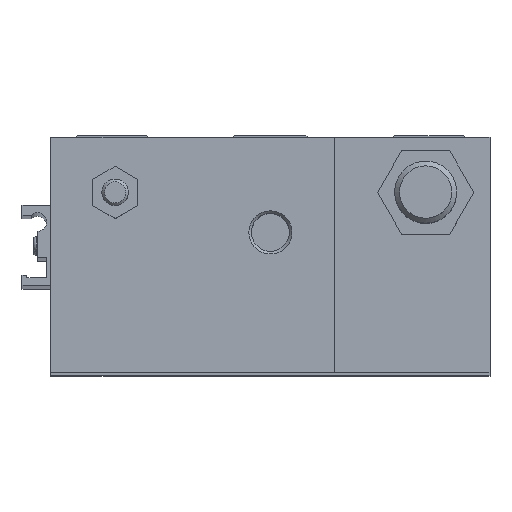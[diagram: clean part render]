
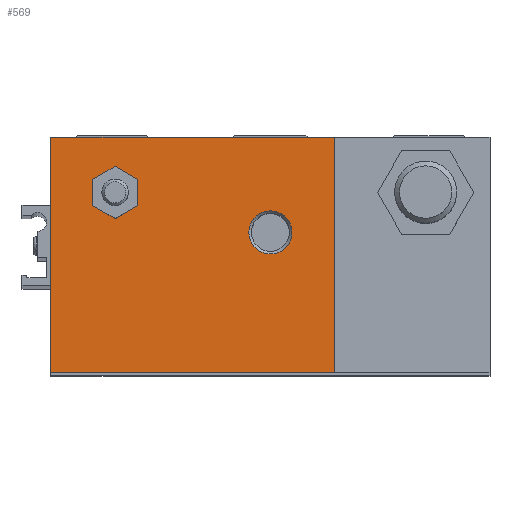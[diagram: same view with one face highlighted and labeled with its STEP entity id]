
A CAD part, top view. The second image highlights one B-rep face of the part: STEP entity #569.
In plain terms, the highlighted planar face has unit normal (0, 0, 1) as drawn and (0, 0, -1) by its records, which use the part's own axes.
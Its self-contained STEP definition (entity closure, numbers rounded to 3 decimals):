
#569 = ADVANCED_FACE( '', ( #1238, #1239, #1240 ), #1241, .F. );
#1238 = FACE_BOUND( '', #1942, .T. );
#1239 = FACE_BOUND( '', #1943, .T. );
#1240 = FACE_OUTER_BOUND( '', #1944, .T. );
#1241 = PLANE( '', #1945 );
#1942 = EDGE_LOOP( '', ( #3171, #3172, #3173, #3174, #3175, #3176 ) );
#1943 = EDGE_LOOP( '', ( #3177 ) );
#1944 = EDGE_LOOP( '', ( #3178, #3179, #3180, #3181 ) );
#1945 = AXIS2_PLACEMENT_3D( '', #3182, #3183, #3184 );
#3171 = ORIENTED_EDGE( '', *, *, #3873, .T. );
#3172 = ORIENTED_EDGE( '', *, *, #3876, .T. );
#3173 = ORIENTED_EDGE( '', *, *, #3591, .T. );
#3174 = ORIENTED_EDGE( '', *, *, #3670, .T. );
#3175 = ORIENTED_EDGE( '', *, *, #3728, .T. );
#3176 = ORIENTED_EDGE( '', *, *, #3657, .T. );
#3177 = ORIENTED_EDGE( '', *, *, #3740, .T. );
#3178 = ORIENTED_EDGE( '', *, *, #3743, .T. );
#3179 = ORIENTED_EDGE( '', *, *, #3830, .F. );
#3180 = ORIENTED_EDGE( '', *, *, #3877, .F. );
#3181 = ORIENTED_EDGE( '', *, *, #3878, .T. );
#3182 = CARTESIAN_POINT( '', ( 14.5, 53., -494.5 ) );
#3183 = DIRECTION( '', ( 0., 0., 1. ) );
#3184 = DIRECTION( '', ( 1., 0., 0. ) );
#3591 = EDGE_CURVE( '', #4195, #4196, #4197, .T. );
#3657 = EDGE_CURVE( '', #4299, #4300, #4301, .T. );
#3670 = EDGE_CURVE( '', #4196, #4319, #4320, .T. );
#3728 = EDGE_CURVE( '', #4319, #4299, #4406, .T. );
#3740 = EDGE_CURVE( '', #4422, #4422, #4423, .T. );
#3743 = EDGE_CURVE( '', #4426, #4427, #4428, .T. );
#3830 = EDGE_CURVE( '', #4552, #4427, #4554, .T. );
#3873 = EDGE_CURVE( '', #4300, #4605, #4606, .T. );
#3876 = EDGE_CURVE( '', #4605, #4195, #4609, .T. );
#3877 = EDGE_CURVE( '', #4610, #4552, #4611, .T. );
#3878 = EDGE_CURVE( '', #4610, #4426, #4612, .T. );
#4195 = VERTEX_POINT( '', #4999 );
#4196 = VERTEX_POINT( '', #5000 );
#4197 = LINE( '', #5001, #5002 );
#4299 = VERTEX_POINT( '', #5131 );
#4300 = VERTEX_POINT( '', #5132 );
#4301 = LINE( '', #5133, #5134 );
#4319 = VERTEX_POINT( '', #5154 );
#4320 = LINE( '', #5155, #5156 );
#4406 = LINE( '', #5257, #5258 );
#4422 = VERTEX_POINT( '', #5275 );
#4423 = CIRCLE( '', #5276, 4.864 );
#4426 = VERTEX_POINT( '', #5279 );
#4427 = VERTEX_POINT( '', #5280 );
#4428 = LINE( '', #5281, #5282 );
#4552 = VERTEX_POINT( '', #5444 );
#4554 = LINE( '', #5447, #5448 );
#4605 = VERTEX_POINT( '', #5513 );
#4606 = LINE( '', #5514, #5515 );
#4609 = LINE( '', #5519, #5520 );
#4610 = VERTEX_POINT( '', #5521 );
#4611 = LINE( '', #5522, #5523 );
#4612 = LINE( '', #5524, #5525 );
#4999 = CARTESIAN_POINT( '', ( -40.1, 9.556, -494.5 ) );
#5000 = CARTESIAN_POINT( '', ( -35., 6.611, -494.5 ) );
#5001 = CARTESIAN_POINT( '', ( -17.962, -3.226, -494.5 ) );
#5002 = VECTOR( '', #5800, 1000. );
#5131 = CARTESIAN_POINT( '', ( -29.9, 15.444, -494.5 ) );
#5132 = CARTESIAN_POINT( '', ( -35., 18.389, -494.5 ) );
#5133 = CARTESIAN_POINT( '', ( -12.862, 5.608, -494.5 ) );
#5134 = VECTOR( '', #5888, 1000. );
#5154 = CARTESIAN_POINT( '', ( -29.9, 9.556, -494.5 ) );
#5155 = CARTESIAN_POINT( '', ( 22.212, 39.642, -494.5 ) );
#5156 = VECTOR( '', #5906, 1000. );
#5257 = CARTESIAN_POINT( '', ( -29.9, 53., -494.5 ) );
#5258 = VECTOR( '', #5979, 1000. );
#5275 = CARTESIAN_POINT( '', ( 4.864, 21.5, -494.5 ) );
#5276 = AXIS2_PLACEMENT_3D( '', #5993, #5994, #5995 );
#5279 = CARTESIAN_POINT( '', ( 14.5, 0., -494.5 ) );
#5280 = CARTESIAN_POINT( '', ( -49.5, 0., -494.5 ) );
#5281 = CARTESIAN_POINT( '', ( 14.5, 0., -494.5 ) );
#5282 = VECTOR( '', #5996, 1000. );
#5444 = CARTESIAN_POINT( '', ( -49.5, 53., -494.5 ) );
#5447 = CARTESIAN_POINT( '', ( -49.5, 53., -494.5 ) );
#5448 = VECTOR( '', #6090, 1000. );
#5513 = CARTESIAN_POINT( '', ( -40.1, 15.444, -494.5 ) );
#5514 = CARTESIAN_POINT( '', ( 17.112, 48.476, -494.5 ) );
#5515 = VECTOR( '', #6120, 1000. );
#5519 = CARTESIAN_POINT( '', ( -40.1, 53., -494.5 ) );
#5520 = VECTOR( '', #6122, 1000. );
#5521 = CARTESIAN_POINT( '', ( 14.5, 53., -494.5 ) );
#5522 = CARTESIAN_POINT( '', ( 14.5, 53., -494.5 ) );
#5523 = VECTOR( '', #6123, 1000. );
#5524 = CARTESIAN_POINT( '', ( 14.5, 53., -494.5 ) );
#5525 = VECTOR( '', #6124, 1000. );
#5800 = DIRECTION( '', ( 0.866, -0.5, 0. ) );
#5888 = DIRECTION( '', ( -0.866, 0.5, 0. ) );
#5906 = DIRECTION( '', ( 0.866, 0.5, 0. ) );
#5979 = DIRECTION( '', ( 0., 1., 0. ) );
#5993 = CARTESIAN_POINT( '', ( 0., 21.5, -494.5 ) );
#5994 = DIRECTION( '', ( 0., 0., 1. ) );
#5995 = DIRECTION( '', ( 1., 0., 0. ) );
#5996 = DIRECTION( '', ( -1., 0., 0. ) );
#6090 = DIRECTION( '', ( 0., -1., 0. ) );
#6120 = DIRECTION( '', ( -0.866, -0.5, 0. ) );
#6122 = DIRECTION( '', ( 0., -1., 0. ) );
#6123 = DIRECTION( '', ( -1., 0., 0. ) );
#6124 = DIRECTION( '', ( 0., -1., 0. ) );
